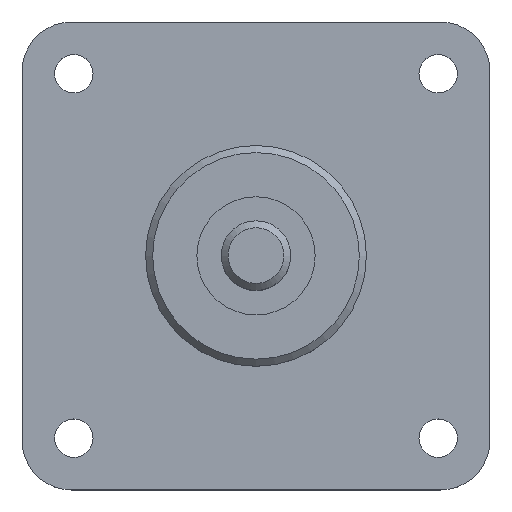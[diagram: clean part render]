
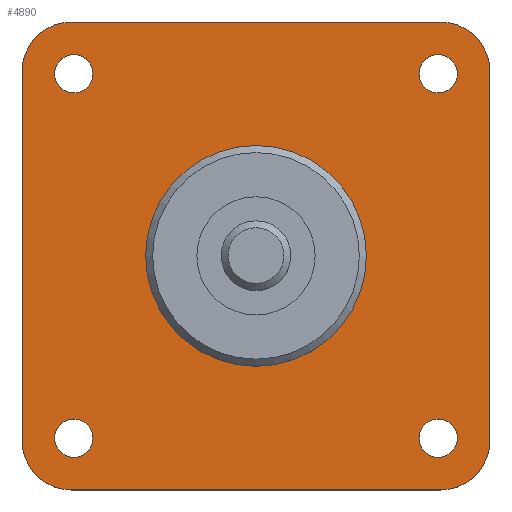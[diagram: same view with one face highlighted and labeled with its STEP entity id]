
A CAD part, top view. The second image highlights one B-rep face of the part: STEP entity #4890.
In plain terms, the highlighted planar face has unit normal (0, 0, 1).
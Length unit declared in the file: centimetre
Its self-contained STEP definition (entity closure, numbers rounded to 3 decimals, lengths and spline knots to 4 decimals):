
#141=VECTOR('',#5792,1.);
#144=VECTOR('',#5800,1.);
#147=VECTOR('',#5808,1.);
#150=VECTOR('',#5816,1.);
#364=LINE('',#7019,#141);
#367=LINE('',#7027,#144);
#370=LINE('',#7035,#147);
#373=LINE('',#7043,#150);
#1713=PLANE('',#5200);
#1845=VERTEX_POINT('',#7007);
#1847=VERTEX_POINT('',#7014);
#1848=VERTEX_POINT('',#7015);
#1849=VERTEX_POINT('',#7020);
#1850=VERTEX_POINT('',#7024);
#1851=VERTEX_POINT('',#7028);
#1852=VERTEX_POINT('',#7032);
#1853=VERTEX_POINT('',#7036);
#1854=VERTEX_POINT('',#7040);
#1855=VERTEX_POINT('',#7046);
#1856=VERTEX_POINT('',#7049);
#1857=VERTEX_POINT('',#7052);
#1858=VERTEX_POINT('',#7055);
#2221=CIRCLE('',#5176,1.5875);
#2223=CIRCLE('',#5181,0.7112);
#2224=CIRCLE('',#5184,0.7112);
#2225=CIRCLE('',#5187,0.7112);
#2226=CIRCLE('',#5190,0.7112);
#2227=CIRCLE('',#5193,0.2769);
#2228=CIRCLE('',#5195,0.2769);
#2229=CIRCLE('',#5197,0.2769);
#2230=CIRCLE('',#5199,0.2769);
#2500=EDGE_CURVE('',#1845,#1845,#2221,.T.);
#2502=EDGE_CURVE('',#1847,#1848,#2223,.T.);
#2505=EDGE_CURVE('',#1848,#1849,#364,.T.);
#2507=EDGE_CURVE('',#1849,#1850,#2224,.T.);
#2509=EDGE_CURVE('',#1850,#1851,#367,.T.);
#2511=EDGE_CURVE('',#1851,#1852,#2225,.T.);
#2513=EDGE_CURVE('',#1852,#1853,#370,.T.);
#2515=EDGE_CURVE('',#1853,#1854,#2226,.T.);
#2517=EDGE_CURVE('',#1854,#1847,#373,.T.);
#2518=EDGE_CURVE('',#1855,#1855,#2227,.T.);
#2519=EDGE_CURVE('',#1856,#1856,#2228,.T.);
#2520=EDGE_CURVE('',#1857,#1857,#2229,.T.);
#2521=EDGE_CURVE('',#1858,#1858,#2230,.T.);
#3100=ORIENTED_EDGE('',*,*,#2500,.T.);
#3101=ORIENTED_EDGE('',*,*,#2521,.F.);
#3102=ORIENTED_EDGE('',*,*,#2520,.F.);
#3103=ORIENTED_EDGE('',*,*,#2519,.F.);
#3104=ORIENTED_EDGE('',*,*,#2518,.F.);
#3105=ORIENTED_EDGE('',*,*,#2502,.F.);
#3106=ORIENTED_EDGE('',*,*,#2517,.F.);
#3107=ORIENTED_EDGE('',*,*,#2515,.F.);
#3108=ORIENTED_EDGE('',*,*,#2513,.F.);
#3109=ORIENTED_EDGE('',*,*,#2511,.F.);
#3110=ORIENTED_EDGE('',*,*,#2509,.F.);
#3111=ORIENTED_EDGE('',*,*,#2507,.F.);
#3112=ORIENTED_EDGE('',*,*,#2505,.F.);
#4149=EDGE_LOOP('',(#3100));
#4150=EDGE_LOOP('',(#3101));
#4151=EDGE_LOOP('',(#3102));
#4152=EDGE_LOOP('',(#3103));
#4153=EDGE_LOOP('',(#3104));
#4154=EDGE_LOOP('',(#3105,#3106,#3107,#3108,#3109,#3110,#3111,#3112));
#4533=FACE_BOUND('',#4149,.T.);
#4534=FACE_BOUND('',#4150,.T.);
#4535=FACE_BOUND('',#4151,.T.);
#4536=FACE_BOUND('',#4152,.T.);
#4537=FACE_BOUND('',#4153,.T.);
#4538=FACE_BOUND('',#4154,.T.);
#4890=ADVANCED_FACE('',(#4533,#4534,#4535,#4536,#4537,#4538),#1713,.T.);
#5176=AXIS2_PLACEMENT_3D('',#7006,#5778,#5779);
#5181=AXIS2_PLACEMENT_3D('',#7013,#5787,#5788);
#5184=AXIS2_PLACEMENT_3D('',#7023,#5796,#5797);
#5187=AXIS2_PLACEMENT_3D('',#7031,#5804,#5805);
#5190=AXIS2_PLACEMENT_3D('',#7039,#5812,#5813);
#5193=AXIS2_PLACEMENT_3D('',#7045,#5819,#5820);
#5195=AXIS2_PLACEMENT_3D('',#7048,#5823,#5824);
#5197=AXIS2_PLACEMENT_3D('',#7051,#5827,#5828);
#5199=AXIS2_PLACEMENT_3D('',#7054,#5831,#5832);
#5200=AXIS2_PLACEMENT_3D('',#7056,#5833,$);
#5778=DIRECTION('',(0.,0.,-1.));
#5779=DIRECTION('',(1.588,0.,0.));
#5787=DIRECTION('',(0.,0.,-1.));
#5788=DIRECTION('',(0.711,0.,0.));
#5792=DIRECTION('',(1.,0.,0.));
#5796=DIRECTION('',(0.,0.,-1.));
#5797=DIRECTION('',(0.711,0.,0.));
#5800=DIRECTION('',(0.,-1.,0.));
#5804=DIRECTION('',(0.,0.,-1.));
#5805=DIRECTION('',(0.711,0.,0.));
#5808=DIRECTION('',(-1.,0.,0.));
#5812=DIRECTION('',(0.,0.,-1.));
#5813=DIRECTION('',(0.711,0.,0.));
#5816=DIRECTION('',(0.,1.,0.));
#5819=DIRECTION('',(0.,0.,1.));
#5820=DIRECTION('',(0.277,0.,0.));
#5823=DIRECTION('',(0.,0.,1.));
#5824=DIRECTION('',(0.277,0.,0.));
#5827=DIRECTION('',(0.,0.,1.));
#5828=DIRECTION('',(0.277,0.,0.));
#5831=DIRECTION('',(0.,0.,1.));
#5832=DIRECTION('',(0.277,0.,0.));
#5833=DIRECTION('',(0.,0.,1.));
#7006=CARTESIAN_POINT('',(0.,0.,
0.635));
#7007=CARTESIAN_POINT('',(1.5875,0.,0.635));
#7013=CARTESIAN_POINT('',(-2.6543,2.6543,0.635));
#7014=CARTESIAN_POINT('',(-3.3655,2.6543,0.635));
#7015=CARTESIAN_POINT('',(-2.6543,3.3655,0.635));
#7019=CARTESIAN_POINT('',(2.6543,3.3655,0.635));
#7020=CARTESIAN_POINT('',(2.6543,3.3655,0.635));
#7023=CARTESIAN_POINT('',(2.6543,2.6543,0.635));
#7024=CARTESIAN_POINT('',(3.3655,2.6543,0.635));
#7027=CARTESIAN_POINT('',(3.3655,-2.6543,0.635));
#7028=CARTESIAN_POINT('',(3.3655,-2.6543,0.635));
#7031=CARTESIAN_POINT('',(2.6543,-2.6543,0.635));
#7032=CARTESIAN_POINT('',(2.6543,-3.3655,0.635));
#7035=CARTESIAN_POINT('',(-2.6543,-3.3655,0.635));
#7036=CARTESIAN_POINT('',(-2.6543,-3.3655,0.635));
#7039=CARTESIAN_POINT('',(-2.6543,-2.6543,0.635));
#7040=CARTESIAN_POINT('',(-3.3655,-2.6543,0.635));
#7043=CARTESIAN_POINT('',(-3.3655,2.6543,0.635));
#7045=CARTESIAN_POINT('',(-2.6213,2.6213,0.635));
#7046=CARTESIAN_POINT('',(-2.3444,2.6213,0.635));
#7048=CARTESIAN_POINT('',(2.6213,-2.6213,0.635));
#7049=CARTESIAN_POINT('',(2.8981,-2.6213,0.635));
#7051=CARTESIAN_POINT('',(2.6213,2.6213,0.635));
#7052=CARTESIAN_POINT('',(2.8981,2.6213,0.635));
#7054=CARTESIAN_POINT('',(-2.6213,-2.6213,0.635));
#7055=CARTESIAN_POINT('',(-2.3444,-2.6213,0.635));
#7056=CARTESIAN_POINT('',(0.,0.,
0.635));
